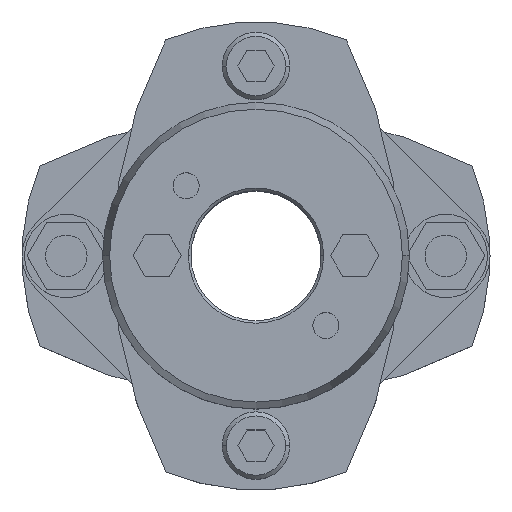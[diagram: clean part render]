
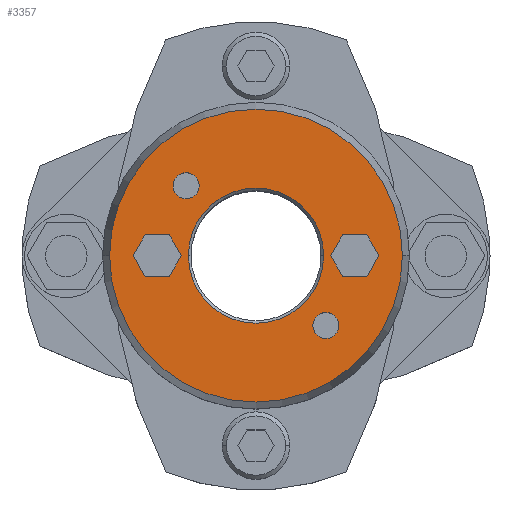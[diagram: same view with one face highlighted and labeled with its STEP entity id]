
A CAD part, top view. The second image highlights one B-rep face of the part: STEP entity #3357.
In plain terms, the highlighted planar face has unit normal (0, 0, 1).
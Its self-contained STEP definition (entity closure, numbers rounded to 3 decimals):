
#1471=CARTESIAN_POINT('',(-13.,0.,39.25));
#1472=VERTEX_POINT('',#1471);
#1488=CARTESIAN_POINT('',(13.,0.,39.25));
#1489=VERTEX_POINT('',#1488);
#1496=CARTESIAN_POINT('',(0.,0.,39.25));
#1497=DIRECTION('',(0.0,0.0,1.0));
#1498=DIRECTION('',(-1.0,0.0,0.0));
#1499=AXIS2_PLACEMENT_3D('',#1496,#1497,#1498);
#1500=CIRCLE('',#1499,13.0);
#1501=EDGE_CURVE('',#1489,#1472,#1500,.T.);
#1659=CARTESIAN_POINT('',(28.16,0.,39.25));
#1660=VERTEX_POINT('',#1659);
#1667=CARTESIAN_POINT('',(-28.16,0.,39.25));
#1668=VERTEX_POINT('',#1667);
#1669=CARTESIAN_POINT('',(0.,0.,39.25));
#1670=DIRECTION('',(0.0,0.0,-1.0));
#1671=DIRECTION('',(1.0,0.0,0.0));
#1672=AXIS2_PLACEMENT_3D('',#1669,#1670,#1671);
#1673=CIRCLE('',#1672,28.16);
#1674=EDGE_CURVE('',#1660,#1668,#1673,.T.);
#1917=CARTESIAN_POINT('',(10.935,-13.435,39.25));
#1918=VERTEX_POINT('',#1917);
#1934=CARTESIAN_POINT('',(15.935,-13.435,39.25));
#1935=VERTEX_POINT('',#1934);
#1942=CARTESIAN_POINT('',(13.435,-13.435,39.25));
#1943=DIRECTION('',(0.0,0.0,-1.0));
#1944=DIRECTION('',(-1.0,0.0,0.0));
#1945=AXIS2_PLACEMENT_3D('',#1942,#1943,#1944);
#1946=CIRCLE('',#1945,2.5);
#1947=EDGE_CURVE('',#1918,#1935,#1946,.T.);
#1959=CARTESIAN_POINT('',(-15.935,13.435,39.25));
#1960=VERTEX_POINT('',#1959);
#1976=CARTESIAN_POINT('',(-10.935,13.435,39.25));
#1977=VERTEX_POINT('',#1976);
#1984=CARTESIAN_POINT('',(-13.435,13.435,39.25));
#1985=DIRECTION('',(0.0,0.0,-1.0));
#1986=DIRECTION('',(-1.0,0.0,0.0));
#1987=AXIS2_PLACEMENT_3D('',#1984,#1985,#1986);
#1988=CIRCLE('',#1987,2.5);
#1989=EDGE_CURVE('',#1960,#1977,#1988,.T.);
#2072=CARTESIAN_POINT('',(-13.435,13.435,39.25));
#2073=DIRECTION('',(0.0,0.0,-1.0));
#2074=DIRECTION('',(-1.0,0.0,0.0));
#2075=AXIS2_PLACEMENT_3D('',#2072,#2073,#2074);
#2076=CIRCLE('',#2075,2.5);
#2077=EDGE_CURVE('',#1977,#1960,#2076,.T.);
#2106=CARTESIAN_POINT('',(13.435,-13.435,39.25));
#2107=DIRECTION('',(0.0,0.0,-1.0));
#2108=DIRECTION('',(-1.0,0.0,0.0));
#2109=AXIS2_PLACEMENT_3D('',#2106,#2107,#2108);
#2110=CIRCLE('',#2109,2.5);
#2111=EDGE_CURVE('',#1935,#1918,#2110,.T.);
#2149=CARTESIAN_POINT('',(-23.619,0.,39.25));
#2150=VERTEX_POINT('',#2149);
#2157=CARTESIAN_POINT('',(-21.309,-4.,39.25));
#2158=VERTEX_POINT('',#2157);
#2159=CARTESIAN_POINT('',(-21.309,-4.,39.25));
#2160=DIRECTION('',(-0.5,0.866,0.0));
#2161=VECTOR('',#2160,4.619);
#2162=LINE('',#2159,#2161);
#2163=EDGE_CURVE('',#2158,#2150,#2162,.T.);
#2187=CARTESIAN_POINT('',(-21.309,4.,39.25));
#2188=VERTEX_POINT('',#2187);
#2195=CARTESIAN_POINT('',(-23.619,0.,39.25));
#2196=DIRECTION('',(0.5,0.866,0.0));
#2197=VECTOR('',#2196,4.619);
#2198=LINE('',#2195,#2197);
#2199=EDGE_CURVE('',#2150,#2188,#2198,.T.);
#2218=CARTESIAN_POINT('',(-16.691,4.,39.25));
#2219=VERTEX_POINT('',#2218);
#2226=CARTESIAN_POINT('',(-21.309,4.,39.25));
#2227=DIRECTION('',(1.0,0.0,0.0));
#2228=VECTOR('',#2227,4.619);
#2229=LINE('',#2226,#2228);
#2230=EDGE_CURVE('',#2188,#2219,#2229,.T.);
#2249=CARTESIAN_POINT('',(-14.381,0.,39.25));
#2250=VERTEX_POINT('',#2249);
#2257=CARTESIAN_POINT('',(-16.691,4.,39.25));
#2258=DIRECTION('',(0.5,-0.866,0.0));
#2259=VECTOR('',#2258,4.619);
#2260=LINE('',#2257,#2259);
#2261=EDGE_CURVE('',#2219,#2250,#2260,.T.);
#2280=CARTESIAN_POINT('',(-16.691,-4.,39.25));
#2281=VERTEX_POINT('',#2280);
#2288=CARTESIAN_POINT('',(-14.381,0.,39.25));
#2289=DIRECTION('',(-0.5,-0.866,0.0));
#2290=VECTOR('',#2289,4.619);
#2291=LINE('',#2288,#2290);
#2292=EDGE_CURVE('',#2250,#2281,#2291,.T.);
#2310=CARTESIAN_POINT('',(-16.691,-4.,39.25));
#2311=DIRECTION('',(-1.0,0.0,0.0));
#2312=VECTOR('',#2311,4.619);
#2313=LINE('',#2310,#2312);
#2314=EDGE_CURVE('',#2281,#2158,#2313,.T.);
#2349=CARTESIAN_POINT('',(14.381,0.,39.25));
#2350=VERTEX_POINT('',#2349);
#2357=CARTESIAN_POINT('',(16.691,-4.,39.25));
#2358=VERTEX_POINT('',#2357);
#2359=CARTESIAN_POINT('',(16.691,-4.,39.25));
#2360=DIRECTION('',(-0.5,0.866,0.0));
#2361=VECTOR('',#2360,4.619);
#2362=LINE('',#2359,#2361);
#2363=EDGE_CURVE('',#2358,#2350,#2362,.T.);
#2387=CARTESIAN_POINT('',(16.691,4.,39.25));
#2388=VERTEX_POINT('',#2387);
#2395=CARTESIAN_POINT('',(14.381,0.,39.25));
#2396=DIRECTION('',(0.5,0.866,0.0));
#2397=VECTOR('',#2396,4.619);
#2398=LINE('',#2395,#2397);
#2399=EDGE_CURVE('',#2350,#2388,#2398,.T.);
#2418=CARTESIAN_POINT('',(21.309,4.,39.25));
#2419=VERTEX_POINT('',#2418);
#2426=CARTESIAN_POINT('',(16.691,4.,39.25));
#2427=DIRECTION('',(1.0,0.0,0.0));
#2428=VECTOR('',#2427,4.619);
#2429=LINE('',#2426,#2428);
#2430=EDGE_CURVE('',#2388,#2419,#2429,.T.);
#2449=CARTESIAN_POINT('',(23.619,0.,39.25));
#2450=VERTEX_POINT('',#2449);
#2457=CARTESIAN_POINT('',(21.309,4.,39.25));
#2458=DIRECTION('',(0.5,-0.866,0.0));
#2459=VECTOR('',#2458,4.619);
#2460=LINE('',#2457,#2459);
#2461=EDGE_CURVE('',#2419,#2450,#2460,.T.);
#2480=CARTESIAN_POINT('',(21.309,-4.,39.25));
#2481=VERTEX_POINT('',#2480);
#2488=CARTESIAN_POINT('',(23.619,0.,39.25));
#2489=DIRECTION('',(-0.5,-0.866,0.0));
#2490=VECTOR('',#2489,4.619);
#2491=LINE('',#2488,#2490);
#2492=EDGE_CURVE('',#2450,#2481,#2491,.T.);
#2510=CARTESIAN_POINT('',(21.309,-4.,39.25));
#2511=DIRECTION('',(-1.0,0.0,0.0));
#2512=VECTOR('',#2511,4.619);
#2513=LINE('',#2510,#2512);
#2514=EDGE_CURVE('',#2481,#2358,#2513,.T.);
#3304=CARTESIAN_POINT('',(0.,0.,39.25));
#3305=DIRECTION('',(0.0,0.0,-1.0));
#3306=DIRECTION('',(1.0,0.0,0.0));
#3307=AXIS2_PLACEMENT_3D('',#3304,#3305,#3306);
#3308=CIRCLE('',#3307,28.16);
#3309=EDGE_CURVE('',#1668,#1660,#3308,.T.);
#3314=CARTESIAN_POINT('',(-2.682,0.,39.25));
#3315=DIRECTION('',(0.0,0.0,1.0));
#3316=DIRECTION('',(-1.0,0.0,0.0));
#3317=AXIS2_PLACEMENT_3D('',#3314,#3315,#3316);
#3318=PLANE('',#3317);
#3319=ORIENTED_EDGE('',*,*,#3309,.F.);
#3320=ORIENTED_EDGE('',*,*,#1674,.F.);
#3321=EDGE_LOOP('',(#3319,#3320));
#3322=FACE_OUTER_BOUND('',#3321,.T.);
#3323=ORIENTED_EDGE('',*,*,#1989,.T.);
#3324=ORIENTED_EDGE('',*,*,#2077,.T.);
#3325=EDGE_LOOP('',(#3323,#3324));
#3326=FACE_BOUND('',#3325,.T.);
#3327=ORIENTED_EDGE('',*,*,#1947,.T.);
#3328=ORIENTED_EDGE('',*,*,#2111,.T.);
#3329=EDGE_LOOP('',(#3327,#3328));
#3330=FACE_BOUND('',#3329,.T.);
#3331=ORIENTED_EDGE('',*,*,#2163,.T.);
#3332=ORIENTED_EDGE('',*,*,#2199,.T.);
#3333=ORIENTED_EDGE('',*,*,#2230,.T.);
#3334=ORIENTED_EDGE('',*,*,#2261,.T.);
#3335=ORIENTED_EDGE('',*,*,#2292,.T.);
#3336=ORIENTED_EDGE('',*,*,#2314,.T.);
#3337=EDGE_LOOP('',(#3331,#3332,#3333,#3334,#3335,#3336));
#3338=FACE_BOUND('',#3337,.T.);
#3339=ORIENTED_EDGE('',*,*,#2363,.T.);
#3340=ORIENTED_EDGE('',*,*,#2399,.T.);
#3341=ORIENTED_EDGE('',*,*,#2430,.T.);
#3342=ORIENTED_EDGE('',*,*,#2461,.T.);
#3343=ORIENTED_EDGE('',*,*,#2492,.T.);
#3344=ORIENTED_EDGE('',*,*,#2514,.T.);
#3345=EDGE_LOOP('',(#3339,#3340,#3341,#3342,#3343,#3344));
#3346=FACE_BOUND('',#3345,.T.);
#3347=ORIENTED_EDGE('',*,*,#1501,.F.);
#3348=CARTESIAN_POINT('',(0.,0.,39.25));
#3349=DIRECTION('',(0.0,0.0,1.0));
#3350=DIRECTION('',(-1.0,0.0,0.0));
#3351=AXIS2_PLACEMENT_3D('',#3348,#3349,#3350);
#3352=CIRCLE('',#3351,13.0);
#3353=EDGE_CURVE('',#1472,#1489,#3352,.T.);
#3354=ORIENTED_EDGE('',*,*,#3353,.F.);
#3355=EDGE_LOOP('',(#3347,#3354));
#3356=FACE_BOUND('',#3355,.T.);
#3357=ADVANCED_FACE('',(#3322,#3326,#3330,#3338,#3346,#3356),#3318,.T.);
